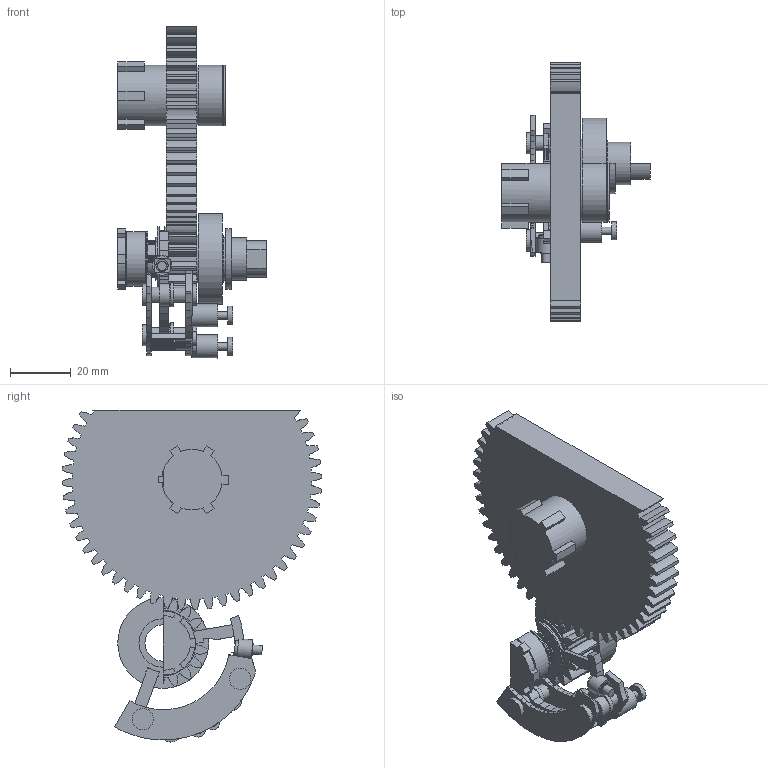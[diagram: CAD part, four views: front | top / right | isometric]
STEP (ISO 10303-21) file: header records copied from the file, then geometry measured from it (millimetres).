
FILE_DESCRIPTION(('Open CASCADE Model'),'2;1');
FILE_NAME('R12_B3_SECTION','2026-09-28T18:39:13',('Author'),( 'Open CASCADE'),'Open CASCADE STEP processor 7.9','build123d', 'Unknown');
FILE_SCHEMA(('AUTOMOTIVE_DESIGN { 1 0 10303 214 1 1 1 1 }'));
Length unit declared in the file: millimetre
Products named in the file (28): R12_B3_SECTION; B3_R12_12x14_flanged_plain_bush; B3_R12_bush_boundary_C_clip; B3_R12_case_mount_M3_1; B3_R12_case_mount_M3_2; B3_R12_follower_keeper; B3_R12_free_17T_end_face_windows; B3_R12_front_support_and_carrier; B3_R12_guide_1_left_retainer; B3_R12_guide_1_right_retainer; B3_R12_guide_2_left_retainer; B3_R12_guide_2_right_retainer; B3_R12_guide_rod_1_with_stop; B3_R12_guide_rod_2_with_stop; B3_R12_radial_follower_pin; B3_R12_rear_support_M3_1; B3_R12_rear_support_M3_2; B3_R12_removable_rear_support; B3_R12_U_axis_single_sided_dog; B3_R12_U_axis_two_foot_fork; U_R12_local_12mm_shaft; U_R12_removable_original_bearing_seal_land; B3_driver_56T; B3_driver_56T_key; intermediate_shaft_1_R6_B12_local_segment; U_right_bearing; U_right_retaining_ring; U_right_shaft_seal
Assembly tree (27 placements, depth 2):
  R12_B3_SECTION
    B3_R12_12x14_flanged_plain_bush
    B3_R12_bush_boundary_C_clip
    B3_R12_case_mount_M3_1
    B3_R12_case_mount_M3_2
    B3_R12_follower_keeper
    B3_R12_free_17T_end_face_windows
    B3_R12_front_support_and_carrier
    B3_R12_guide_1_left_retainer
    B3_R12_guide_1_right_retainer
    B3_R12_guide_2_left_retainer
    B3_R12_guide_2_right_retainer
    B3_R12_guide_rod_1_with_stop
    B3_R12_guide_rod_2_with_stop
    B3_R12_radial_follower_pin
    B3_R12_rear_support_M3_1
    B3_R12_rear_support_M3_2
    B3_R12_removable_rear_support
    B3_R12_U_axis_single_sided_dog
    B3_R12_U_axis_two_foot_fork
    U_R12_local_12mm_shaft
    U_R12_removable_original_bearing_seal_land
    B3_driver_56T
    B3_driver_56T_key
    intermediate_shaft_1_R6_B12_local_segment
    U_right_bearing
    U_right_retaining_ring
    U_right_shaft_seal
Bounding box: 49 x 85.79 x 109.61 mm (x, y, z)
Volume: 68296.5 mm3; surface area: 32089.9 mm2
Topology: 27 solids, 27 shells, 1175 faces, 3180 edges, 2089 vertices
Faces by surface type: plane 862, cylinder 209, extrusion 96, cone 8
Full cylindrical faces by diameter (mm): 1.2 x1, 1.3 x3, 2 x4, 2.1 x4, 2.4 x2, 2.5 x2, 2.6 x2, 3 x1, 4 x1, 4.06 x1, 4.6 x2, 4.8 x1, 5 x4, 5.08 x6, 6 x2, 6.4 x1, 7 x4, 7.4 x2, 7.6 x2, 8 x2, 12.05 x1, 13.2 x2, 14 x3, 15.2 x1, 16 x1, 30 x1
Entity records: 87863 total; most frequent: CARTESIAN_POINT 23467, DIRECTION 11460, VECTOR 7879, LINE 7783, ORIENTED_EDGE 6360, PCURVE 6360, DEFINITIONAL_REPRESENTATION 6360, EDGE_CURVE 3180
